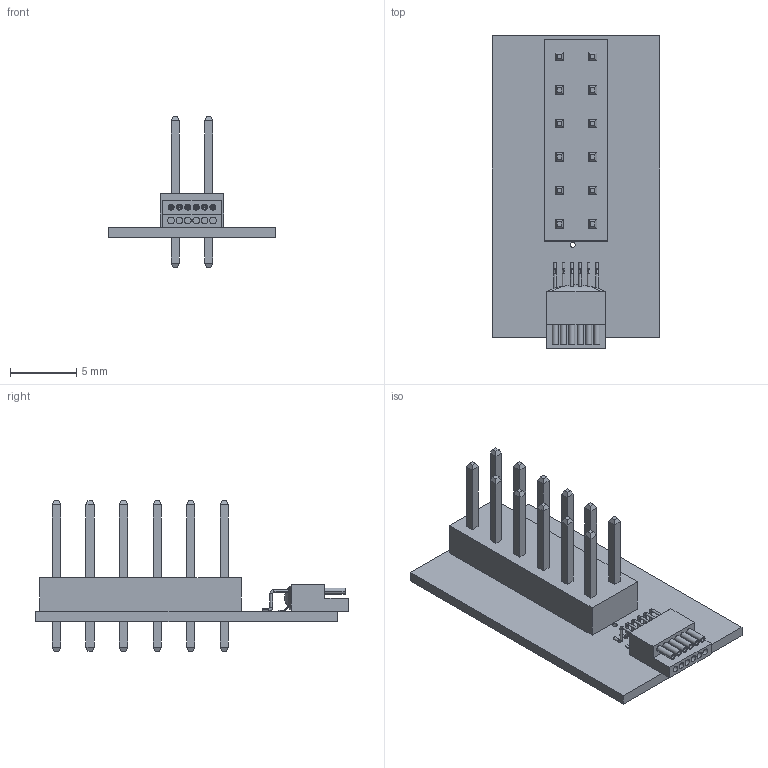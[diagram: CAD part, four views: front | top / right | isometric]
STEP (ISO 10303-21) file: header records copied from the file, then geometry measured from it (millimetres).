
FILE_DESCRIPTION (( 'STEP AP214' ), '1' );
FILE_NAME ('RHD_SPI_Cable_Adapter_socket.STEP', '2022-03-21T18:56:40', ( '' ), ( '' ), 'SwSTEP 2.0', 'SolidWorks 2022', '' );
FILE_SCHEMA (( 'AUTOMOTIVE_DESIGN' ));
Length unit declared in the file: inch
Products named in the file (4): RHD_SPI_Cable_Adapter_socket; A79623-001; RHD_SPI_Cable_Adapter_PCB; ConnHeader_12pos
Assembly tree (3 placements, depth 2):
  RHD_SPI_Cable_Adapter_socket
    RHD_SPI_Cable_Adapter_PCB
    A79623-001
    ConnHeader_12pos
Bounding box: 12.7 x 23.69 x 11.43 mm (x, y, z)
Volume: 477.3 mm3; surface area: 1335 mm2
Topology: 3 solids, 9 shells, 510 faces, 1184 edges, 735 vertices
Faces by surface type: plane 302, cylinder 168, bspline 28, cone 12
Entity records: 18685 total; most frequent: CARTESIAN_POINT 3818, DIRECTION 2478, ORIENTED_EDGE 2336, EDGE_CURVE 1168, AXIS2_PLACEMENT_3D 860, LINE 758, VECTOR 758, VERTEX_POINT 735
